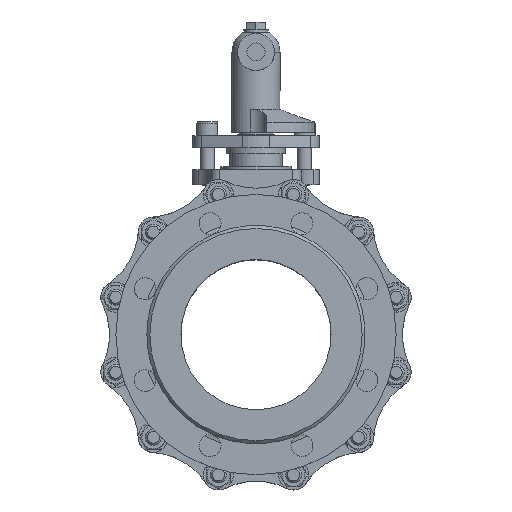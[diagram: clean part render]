
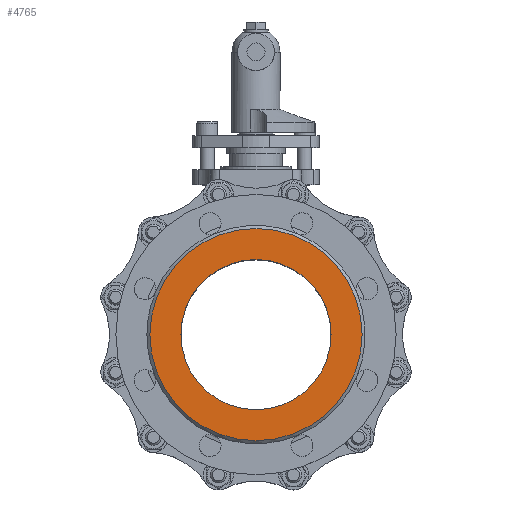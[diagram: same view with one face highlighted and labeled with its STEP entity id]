
A CAD part, top view. The second image highlights one B-rep face of the part: STEP entity #4765.
In plain terms, the highlighted planar face has unit normal (0, 0, 1) as drawn and (1, 0, 0) by its records, which use the part's own axes.
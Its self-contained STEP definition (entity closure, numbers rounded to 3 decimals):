
#4765=ADVANCED_FACE('',(#18923,#18925),#18927,.F.);
#18923=FACE_BOUND('',#18924,.T.);
#18924=EDGE_LOOP('',(#33483));
#18925=FACE_BOUND('',#18926,.T.);
#18926=EDGE_LOOP('',(#33484));
#18927=PLANE('',#18928);
#18928=AXIS2_PLACEMENT_3D('',#18929,#18930,#18931);
#18929=CARTESIAN_POINT('',(92.,0.,0.));
#18930=DIRECTION('',(-1.,0.,0.));
#18931=DIRECTION('',(0.,0.,1.));
#33483=ORIENTED_EDGE('',*,*,#36819,.F.);
#33484=ORIENTED_EDGE('',*,*,#36820,.T.);
#36819=EDGE_CURVE('',#39962,#39962,#39963,.T.);
#36820=EDGE_CURVE('',#39964,#39964,#39965,.T.);
#39962=VERTEX_POINT('',#48214);
#39963=CIRCLE('',#48215,106.);
#39964=VERTEX_POINT('',#48219);
#39965=CIRCLE('',#48220,75.);
#48214=CARTESIAN_POINT('',(92.,0.,106.));
#48215=AXIS2_PLACEMENT_3D('',#48216,#48217,#48218);
#48216=CARTESIAN_POINT('',(92.,0.,0.));
#48217=DIRECTION('',(-1.,0.,0.));
#48218=DIRECTION('',(0.,0.,1.));
#48219=CARTESIAN_POINT('',(92.,0.,75.));
#48220=AXIS2_PLACEMENT_3D('',#48221,#48222,#48223);
#48221=CARTESIAN_POINT('',(92.,0.,0.));
#48222=DIRECTION('',(-1.,0.,0.));
#48223=DIRECTION('',(0.,0.,1.));
